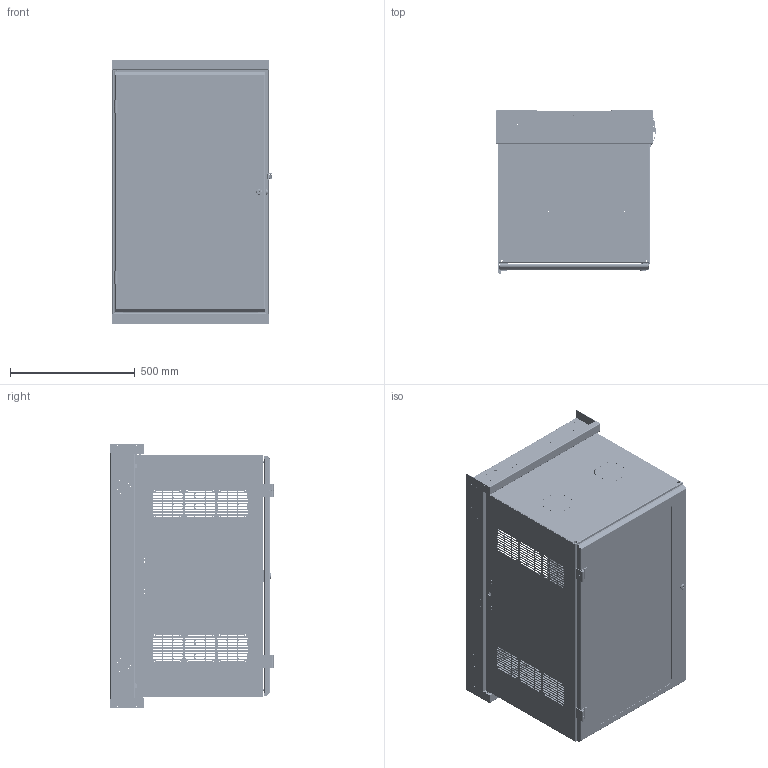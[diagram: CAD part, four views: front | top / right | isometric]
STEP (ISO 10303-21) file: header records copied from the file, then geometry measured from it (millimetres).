
FILE_DESCRIPTION(/* description */ ('Unknown'),/* implementation_level */ '2;1');
FILE_NAME(/* name */ 'HWM2420U20WH',/* time_stamp */ '2025-02-12T15:19:21-05:00',/* author */ ('Unknown'),/* organization */ ('Unknown'),/* preprocessor_version */ 'ST-DEVELOPER v18.104',/* originating_system */ 'Solid Edge',/* authorisation */ 'Unknown');
FILE_SCHEMA (('AUTOMOTIVE_DESIGN {1 0 10303 214 3 1 1}'));
Products named in the file (48): HWM2420U20; COM57687-5; COM56894-2T; STD21878; COM57684-5; HNG14583; COM54375; COM57382-22; COM57384-2; COM57383-1; BSH87667; COM56897-2; FET07734; STR22105; CCH03747; CCH03748-10deg; CCH03748D; CCH03748B; CCH03748E; CCH03748A; CCH03748C; COM56905; LOC13349; LOC13349B; LOC13349A; LAB20204; COM57689-20U; FET07750; COM57689-2; std26020; COM57691-2; COM57778-35; LOC13410; LOC13410B; HNG14605; HNG14605-1; HNG14604-1A; HNG14604-1B; HNG14605-1C; HNG14604-2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
Assembly tree (72 placements, depth 5):
  HWM2420U20
    COM57687-5
      COM56894-2T  x2
        STD21878
        COM56894-2T
      COM57684-5  x2
      HNG14583
      COM54375
    COM57382-22
      COM57384-2  x2
      COM57383-1  x2
        STD21878
        COM57383-1
      BSH87667  x4
    COM56897-2  x2
    FET07734  x4
    STR22105
    CCH03747
    CCH03748-10deg
      CCH03748D
      CCH03748B
      CCH03748E
      CCH03748A
      CCH03748C
    COM56905
    LOC13349
      LOC13349B
      LOC13349A
    LAB20204
    COM57689-20U
      FET07750  x2
      COM57689-2
        COM57689-2
        std26020  x2
        COM57691-2
        COM57778-35  x2
      LOC13410
        LOC13410B
        LOC13349A
      HNG14605
        HNG14605-1
          HNG14604-1A
          HNG14604-1B
          HNG14605-1C
        HNG14604-2  x2
        HNG14605-3
      HNG14604
        HNG14604-3
        HNG14604-2  x2
        HNG14604-1
          HNG14604-1A
          HNG14604-1B
          HNG14604-1C
Bounding box: 641.2 x 654.87 x 1062.02 mm (x, y, z)
Volume: 6578577.3 mm3; surface area: 8309017.2 mm2
Topology: 65 solids, 65 shells, 5040 faces, 14039 edges, 9372 vertices
Faces by surface type: plane 3016, cylinder 1910, bspline 53, cone 40, torus 17, sphere 4
Full cylindrical faces by diameter (mm): 2.54 x2, 3.048 x2, 3.175 x46, 3.454 x4, 3.962 x8, 4.039 x8, 4.297 x2, 4.496 x120, 4.775 x52, 4.978 x1, 5.334 x6, 5.461 x2, 5.537 x8, 6 x4, 6.02 x2, 6.1 x2, 6.2 x8, 6.35 x16, 7.137 x8, 7.938 x12, 8.992 x2, 9.246 x4, 9.95 x8, 10 x2, 10.312 x12, 11.125 x2, 11.684 x2, 12.7 x12, 13.005 x1, 15.011 x1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
Entity records: 91898 total; most frequent: CARTESIAN_POINT 18463, DIRECTION 14826, ORIENTED_EDGE 14606, EDGE_CURVE 7303, AXIS2_PLACEMENT_3D 5044, VERTEX_POINT 4974, LINE 4738, VECTOR 4738
